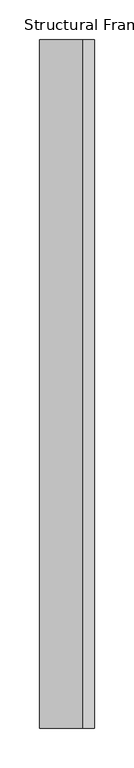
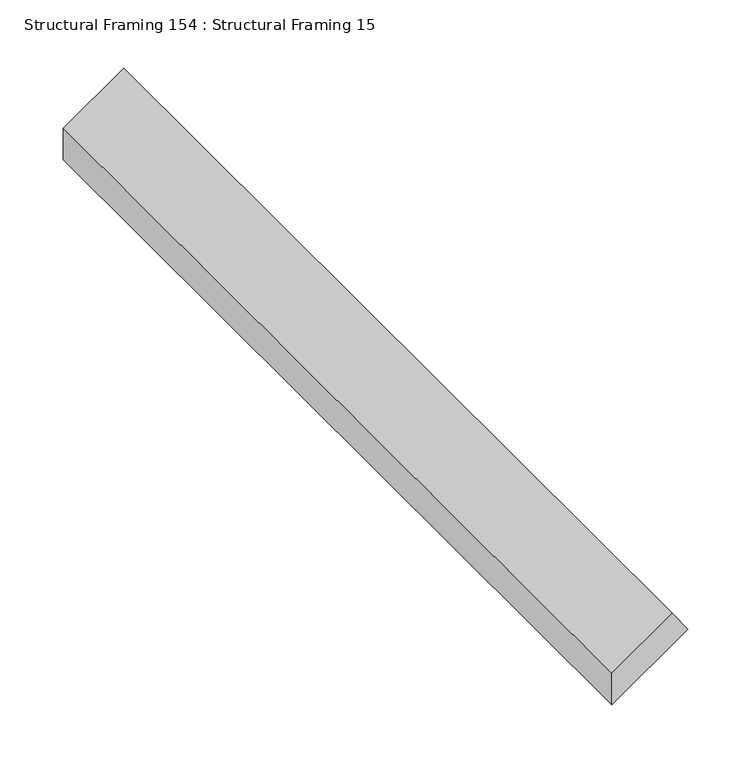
"""IFC4 building model written with IfcOpenShell, lengths in millimetres: beam geometry, Structural Framing 154 : Structural Framing 15."""

import ifcopenshell
import ifcopenshell.guid

model = None  # the IFC model being written
_history = None  # IfcOwnerHistory: only IFC2X3 demands one
_inside = {}  # id of a spatial element -> (the spatial element, [elements in it])
_under = {}  # id of a project, library or spatial element -> (it, [spatial elements below it])
_declared = {}  # id of a project -> (the project, [libraries it declares])
_typed = {}  # id of a type object -> (the type object, [elements of that type])
_made_of = {}  # id of a material, layer set ... -> (it, [elements and type objects made of it])


def new_model(schema):
    """Start an empty IFC model of exactly this schema.

    Asked for "IFC4X3", IfcOpenShell would pick the latest addendum, in which some entities
    have other attributes; the version numbers below select the first issue.
    IFC2X3 requires an IfcOwnerHistory on every rooted entity: one is made here for all.
    """
    global model, _history
    if schema == "IFC4X3":
        model = ifcopenshell.file(schema_version=(4, 3, 0, 0))
    else:
        model = ifcopenshell.file(schema=schema)
    _inside.clear()
    _under.clear()
    _declared.clear()
    _typed.clear()
    _made_of.clear()
    _history = None
    if model.schema == "IFC2X3":
        org = make("IfcOrganization", Name="unknown")
        user = make(
            "IfcPersonAndOrganization",
            ThePerson=make("IfcPerson", FamilyName="unknown"),
            TheOrganization=org,
        )
        app = make(
            "IfcApplication",
            ApplicationDeveloper=org,
            Version="unknown",
            ApplicationFullName="unknown",
            ApplicationIdentifier="unknown",
        )
        _history = make(
            "IfcOwnerHistory",
            OwningUser=user,
            OwningApplication=app,
            ChangeAction="ADDED",
            CreationDate=0,
        )
    return model


def make(cls, **values):
    """One entity of the class cls with the attributes given. An attribute that is None is left unset."""
    return model.create_entity(
        cls, **{name: value for name, value in values.items() if value is not None}
    )


def rooted(cls, **values):
    """An entity with a GlobalId (a new one), such as an element, a storey or a relation."""
    return make(cls, GlobalId=ifcopenshell.guid.new(), OwnerHistory=_history, **values)


def si_unit(unit_type, name, prefix=None):
    """IfcSIUnit, for example si_unit("LENGTHUNIT", "METRE", prefix="MILLI")."""
    return make("IfcSIUnit", UnitType=unit_type, Prefix=prefix, Name=name)


def assignment(units):
    """IfcUnitAssignment: the units of a project."""
    return None if units is None else make("IfcUnitAssignment", Units=units)


def point(xyz):
    """IfcCartesianPoint."""
    return None if xyz is None else make("IfcCartesianPoint", Coordinates=xyz)


def direction(xyz):
    """IfcDirection."""
    return None if xyz is None else make("IfcDirection", DirectionRatios=xyz)


def frame(location, z_axis=None, x_axis=None):
    """IfcAxis2Placement3D, a coordinate frame: its origin and axes. An axis left out is left unset."""
    return make(
        "IfcAxis2Placement3D",
        Location=point(location),
        Axis=direction(z_axis),
        RefDirection=direction(x_axis),
    )


def origin():
    """The frame at (0, 0, 0) with its axes left unset."""
    return frame((0.0, 0.0, 0.0))


def place(relative_to, where):
    """IfcLocalPlacement: puts the frame where relative to a parent placement (None: the world)."""
    return make(
        "IfcLocalPlacement", PlacementRelTo=relative_to, RelativePlacement=where
    )


def context(
    kind, dimensions, precision=None, world=None, true_north=None, identifier=None
):
    """IfcGeometricRepresentationContext, for example the 3D "Model" context."""
    return make(
        "IfcGeometricRepresentationContext",
        ContextIdentifier=identifier,
        ContextType=kind,
        CoordinateSpaceDimension=dimensions,
        Precision=precision,
        WorldCoordinateSystem=world,
        TrueNorth=true_north,
    )


def project(units=None, contexts=None):
    """IfcProject with its units and contexts."""
    return rooted(
        "IfcProject",
        Name="project",
        RepresentationContexts=contexts,
        UnitsInContext=assignment(units),
    )


def spatial(cls, under=None, at=None, **own):
    """A site, building, storey or space (cls), placed at a placement, below another one or the project."""
    s = rooted(cls, ObjectPlacement=at, **own)
    if under is not None:
        _under.setdefault(under.id(), (under, []))[1].append(s)
    return s


def polyline(points):
    """IfcPolyline through the points."""
    return make("IfcPolyline", Points=[point(p) for p in points])


def outline(outer, holes=None, kind="AREA"):
    """IfcArbitraryClosedProfileDef: a profile drawn as a closed curve; with holes, ...WithVoids."""
    if holes is None:
        return make("IfcArbitraryClosedProfileDef", ProfileType=kind, OuterCurve=outer)
    return make(
        "IfcArbitraryProfileDefWithVoids",
        ProfileType=kind,
        OuterCurve=outer,
        InnerCurves=holes,
    )


def extrude(swept, where, along, depth):
    """IfcExtrudedAreaSolid: the profile swept, set in the frame where, extruded along a direction by depth."""
    return make(
        "IfcExtrudedAreaSolid",
        SweptArea=swept,
        Position=where,
        ExtrudedDirection=direction(along),
        Depth=depth,
    )


def shape(context_of_items, identifier, shape_type, items):
    """IfcShapeRepresentation: the items that make up one representation, for example the "Body"."""
    return make(
        "IfcShapeRepresentation",
        ContextOfItems=context_of_items,
        RepresentationIdentifier=identifier,
        RepresentationType=shape_type,
        Items=items,
    )


def source(mapping_origin, context_of_items, identifier, shape_type, items):
    """IfcRepresentationMap: a shape defined once, which mapped items show again and again."""
    return make(
        "IfcRepresentationMap",
        MappingOrigin=mapping_origin,
        MappedRepresentation=shape(context_of_items, identifier, shape_type, items),
    )


def transform(
    local_origin,
    x_axis=None,
    y_axis=None,
    z_axis=None,
    scale=None,
    scale2=None,
    scale3=None,
    uniform=True,
):
    """IfcCartesianTransformationOperator3D, or its non-uniform kind. x_axis, y_axis, z_axis: its Axis1, 2, 3."""
    if uniform:
        return make(
            "IfcCartesianTransformationOperator3D",
            Axis1=direction(x_axis),
            Axis2=direction(y_axis),
            LocalOrigin=point(local_origin),
            Scale=scale,
            Axis3=direction(z_axis),
        )
    return make(
        "IfcCartesianTransformationOperator3DnonUniform",
        Axis1=direction(x_axis),
        Axis2=direction(y_axis),
        LocalOrigin=point(local_origin),
        Scale=scale,
        Axis3=direction(z_axis),
        Scale2=scale2,
        Scale3=scale3,
    )


def mapped(mapping_source, mapping_target):
    """IfcMappedItem: shows the shape of a source again, moved by a transform."""
    return make(
        "IfcMappedItem", MappingSource=mapping_source, MappingTarget=mapping_target
    )


def made_of(thing, what):
    """Note that an element or type object is made of a material, layer set ...; save() writes the relation."""
    if what is not None:
        _made_of.setdefault(what.id(), (what, []))[1].append(thing)
    return thing


def element(
    cls,
    number,
    at=None,
    inside=None,
    cuts=None,
    type_object=None,
    material=None,
    context=None,
    identifier="Body",
    shape_type=None,
    held_by="IfcProductDefinitionShape",
    body=None,
    shapes=None,
    **own,
):
    """One element of the class cls, such as IfcWall. Its Tag is "e" and its number.

    at: its placement. inside: the storey or other place that contains it. cuts: it is an
    opening in that element (IfcRelVoidsElement). A single representation is given by context,
    identifier, shape_type and body (its items); several are given by shapes. held_by: the class
    of the entity that holds the representations. save() writes the other relations.
    """
    e = rooted(cls, Tag="e%d" % number, ObjectPlacement=at, **own)
    if body is not None:
        shapes = [shape(context, identifier, shape_type, body)]
    if shapes is not None:
        e.Representation = make(held_by, Representations=shapes)
    if inside is not None:
        _inside.setdefault(inside.id(), (inside, []))[1].append(e)
    if cuts is not None:
        rooted(
            "IfcRelVoidsElement", RelatingBuildingElement=cuts, RelatedOpeningElement=e
        )
    if type_object is not None:
        _typed.setdefault(type_object.id(), (type_object, []))[1].append(e)
    return made_of(e, material)


def aggregate(whole, parts):
    """IfcRelAggregates: a whole, such as a stair, and the parts it consists of."""
    return rooted("IfcRelAggregates", RelatingObject=whole, RelatedObjects=parts)


def save(model, path):
    """Write the relations noted so far, then the file.

    IfcRelAggregates (storeys below a building ...), IfcRelContainedInSpatialStructure (elements
    in a storey), IfcRelDefinesByType, IfcRelAssociatesMaterial and IfcRelDeclares: one each for
    every whole, place, type object, material and project.
    """
    for whole, parts in _under.values():
        aggregate(whole, parts)
    for where, things in _inside.values():
        rooted(
            "IfcRelContainedInSpatialStructure",
            RelatedElements=things,
            RelatingStructure=where,
        )
    for kind, things in _typed.values():
        rooted("IfcRelDefinesByType", RelatedObjects=things, RelatingType=kind)
    for what, things in _made_of.values():
        rooted("IfcRelAssociatesMaterial", RelatedObjects=things, RelatingMaterial=what)
    for by, libraries in _declared.values():
        rooted("IfcRelDeclares", RelatingContext=by, RelatedDefinitions=libraries)
    model.write(path)


def structural_framing_154_structural_framing_15_ddedf780(model_context):
    return source(origin(), model_context, "Body", "SweptSolid", [
        extrude(outline(polyline([(100.0, -2649.2207109), (120.4788011, -2663.5601218), (81.6513175, -2719.0115151), (51.1319528, -2719.0115151), (100.0, -2649.2207109)])), frame((0.0, -6581.9491979, 0.0), z_axis=(0.0, 1.0, 0.0), x_axis=(0.0, 0.0, 1.0)), (0.0, 0.0, 1.0), 870.0),
    ])


if __name__ == "__main__":
    model = new_model("IFC4")
    model_context = context("Model", 3, world=origin())
    ifc_project = project(units=[si_unit("LENGTHUNIT", "METRE", prefix="MILLI")], contexts=[model_context])
    site = spatial("IfcSite", under=ifc_project)
    building = spatial("IfcBuilding", under=site)
    placement = place(None, origin())
    structural_framing_154_structural_framing_15_shape = structural_framing_154_structural_framing_15_ddedf780(model_context)
    element("IfcBeam", 1, ObjectType="Structural Framing 154 : Structural Framing 15", at=placement, inside=building, context=model_context, shape_type="MappedRepresentation", body=[
        mapped(structural_framing_154_structural_framing_15_shape, transform((0.0, 0.0, 0.0), x_axis=(1.0, 0.0, 0.0), y_axis=(0.0, 1.0, 0.0), z_axis=(0.0, 0.0, 1.0))),
    ])
    save(model, "model.ifc")
